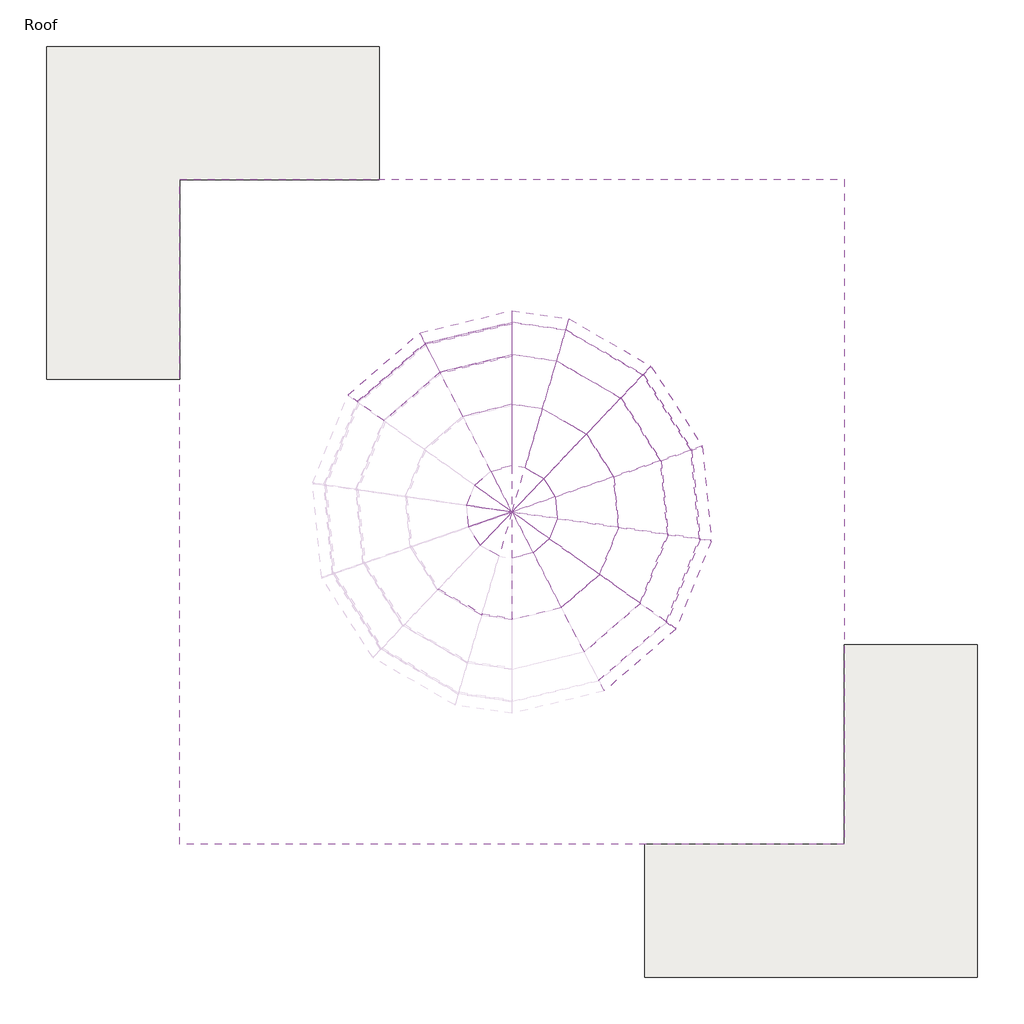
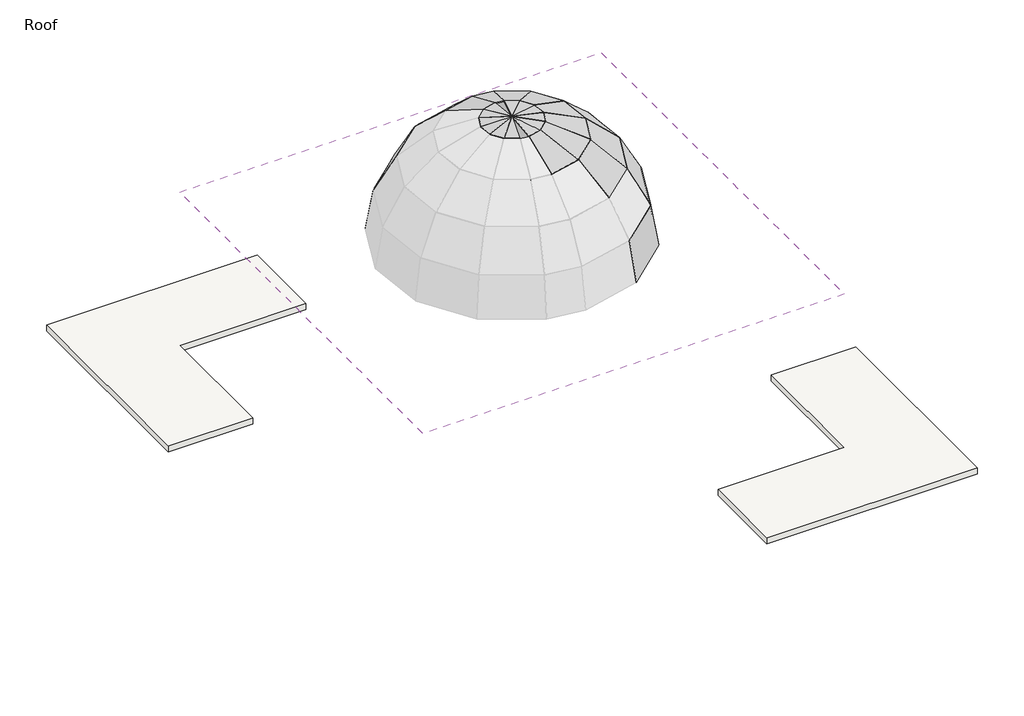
# One storey, part 2 of 2: 42 plates, 6 members, 2 roofs.
"""IFC4 building model written with IfcOpenShell, lengths in millimetres."""

from ifc_helpers import new_model, si_unit, point, frame, frame_2d, origin, place, context, project, spatial, polyline, circle_curve, trimmed, segment, composite_curve, outline, extrude, transform, mapped, element, save
from components import member_fbb779ea, member_620464ac, member_252065d0, member_881e67eb, member_adcb54fa, system_panel_glazed_edfc04ff, system_panel_glazed_745dfbfd, system_panel_glazed_ce843fd4, system_panel_glazed_a0137e14, system_panel_glazed_059680cf, system_panel_glazed_07fdee45, system_panel_glazed_b2bf2ea4, system_panel_glazed_06e87ee0, system_panel_glazed_48acb493, system_panel_glazed_d0db6324, system_panel_glazed_27f85530, system_panel_glazed_3e9c906c, system_panel_glazed_7529af5e, system_panel_glazed_72045049, system_panel_glazed_181d975e, system_panel_glazed_2dfb7dd8, system_panel_glazed_6040db8a, system_panel_glazed_f9e7ae01, system_panel_glazed_623a70a2, system_panel_glazed_789bb291

model = new_model("IFC4")

# Units and contexts
model_context = context("Model", 3, world=origin())
ifc_project = project(units=[si_unit("LENGTHUNIT", "METRE", prefix="MILLI")], contexts=[model_context])

# Site, building, storey
site = spatial("IfcSite", under=ifc_project)
building = spatial("IfcBuilding", under=site)
storey = spatial("IfcBuildingStorey", under=building, Name="Roof", Elevation=15240.0)

# Members
placement = place(None, origin())
member_shape = member_fbb779ea(model_context)
element("IfcMember", 1, ObjectType="Rectangular Mullion : 1\" Square", at=placement, inside=storey, context=model_context, shape_type="MappedRepresentation", body=[
    mapped(member_shape, transform((-7577.773586, 2766.7439013, 22146.744779), x_axis=(0.42588316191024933, 0.7365596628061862, 0.5254554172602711), y_axis=(-0.2630195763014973, -0.4548891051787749, 0.8508211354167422), z_axis=(0.8657044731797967, -0.5005554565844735, 0.0))),
])
member_2_shape = member_620464ac(model_context)
element("IfcMember", 2, ObjectType="Rectangular Mullion : 1\" Square", at=placement, inside=storey, context=model_context, shape_type="MappedRepresentation", body=[
    mapped(member_2_shape, transform((-6885.263284, 2666.9286124, 22146.744779), x_axis=(0.12075933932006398, 0.8378184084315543, 0.5324260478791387), y_axis=(-0.07595652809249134, -0.5269801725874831, 0.8464765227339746), z_axis=(0.9897715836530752, -0.14266117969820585, 0.0))),
])
member_3_shape = member_252065d0(model_context)
element("IfcMember", 3, ObjectType="Rectangular Mullion : 1\" Square", at=placement, inside=storey, context=model_context, shape_type="MappedRepresentation", body=[
    mapped(member_3_shape, transform((-8527.2773738, 8305.1014519, 21126.4036115), x_axis=(0.14889335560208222, -0.6139030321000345, 0.7752121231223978), y_axis=(-0.18271924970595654, 0.7533707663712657, 0.6317010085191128), z_axis=(-0.9718253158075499, -0.23570226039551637, 0.0))),
])
member_4_shape = member_881e67eb(model_context)
element("IfcMember", 4, ObjectType="Rectangular Mullion : 1\" Square", at=placement, inside=storey, context=model_context, shape_type="MappedRepresentation", body=[
    mapped(member_4_shape, transform((-8863.4377386, 8957.3483655, 19790.6842649), x_axis=(0.07946238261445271, -0.3276317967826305, 0.9414579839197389), y_axis=(-0.2219037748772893, 0.9149327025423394, 0.33713033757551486), z_axis=(-0.9718253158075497, -0.23570226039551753, 0.0))),
])
member_5_shape = member_adcb54fa(model_context)
element("IfcMember", 5, ObjectType="Rectangular Mullion : 1\" Square", at=placement, inside=storey, context=model_context, shape_type="MappedRepresentation", body=[
    mapped(member_5_shape, transform((-7922.2533534, 5268.593181, 22738.3365267), x_axis=(-0.1426611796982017, -0.9897715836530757, 0.0), y_axis=(-0.11444177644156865, 0.01649511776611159, 0.9932930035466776), z_axis=(-0.9831331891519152, 0.1417043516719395, -0.11562443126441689))),
])
element("IfcMember", 6, ObjectType="Rectangular Mullion : 1\" Square", at=placement, inside=storey, context=model_context, shape_type="MappedRepresentation", body=[
    mapped(member_5_shape, transform((-7875.5064995, 4776.9168891, 22738.3365267), x_axis=(0.32662703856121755, -0.9451533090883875, 0.0), y_axis=(-0.10928281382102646, -0.03776606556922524, 0.9932930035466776), z_axis=(-0.9388141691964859, -0.3244363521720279, -0.11562443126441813))),
])

# Plates
system_panel_glazed_shape = system_panel_glazed_edfc04ff(model_context)
element("IfcPlate", 7, ObjectType="System Panel : Glazed", at=placement, inside=storey, context=model_context, shape_type="MappedRepresentation", body=[
    mapped(system_panel_glazed_shape, transform((-7932.5321129, 9437.1261432, 18288.0), x_axis=(-0.9718253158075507, -0.23570226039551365, 0.0), y_axis=(0.2325850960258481, -0.9589729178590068, -0.1620960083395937), z_axis=(0.03820639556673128, -0.15752900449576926, 0.9867749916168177))),
])
element("IfcPlate", 8, ObjectType="System Panel : Glazed", at=placement, inside=storey, context=model_context, shape_type="MappedRepresentation", body=[
    mapped(system_panel_glazed_shape, transform((-3976.1832037, 1760.6816988, 18288.0), x_axis=(0.7558641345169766, 0.6547285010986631, 0.0), y_axis=(-0.6460697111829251, 0.745867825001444, -0.16209600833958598), z_axis=(-0.10612887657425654, 0.12252255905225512, 0.9867749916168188))),
])
element("IfcPlate", 9, ObjectType="System Panel : Glazed", at=placement, inside=storey, context=model_context, shape_type="MappedRepresentation", body=[
    mapped(system_panel_glazed_shape, transform((-2760.8341924, 3466.558242, 18288.0), x_axis=(0.3719331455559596, 0.9282595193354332, 0.0), y_axis=(-0.9159832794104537, 0.3670143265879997, -0.16209600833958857), z_axis=(-0.1504671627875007, 0.06028887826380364, 0.9867749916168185))),
])
element("IfcPlate", 10, ObjectType="System Panel : Glazed", at=placement, inside=storey, context=model_context, shape_type="MappedRepresentation", body=[
    mapped(system_panel_glazed_shape, transform((-2462.0249792, 5539.6720966, 18288.0), x_axis=(-0.09464965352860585, 0.9955106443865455, 0.0), y_axis=(-0.9823450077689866, -0.0933979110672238, -0.16209600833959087), z_axis=(-0.1613683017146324, -0.015342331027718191, 0.986774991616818))),
])
element("IfcPlate", 11, ObjectType="System Panel : Glazed", at=placement, inside=storey, context=model_context, shape_type="MappedRepresentation", body=[
    mapped(system_panel_glazed_shape, transform((-3146.1576115, 7519.3312949, 18288.0), x_axis=(-0.5401991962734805, 0.8415371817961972, 0.0), y_axis=(-0.8304078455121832, -0.5330550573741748, -0.1620960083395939), z_axis=(-0.13640981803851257, -0.08756413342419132, 0.9867749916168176))),
])
element("IfcPlate", 12, ObjectType="System Panel : Glazed", at=placement, inside=storey, context=model_context, shape_type="MappedRepresentation", body=[
    mapped(system_panel_glazed_shape, transform((-4661.2026155, 8965.6115706, 18288.0), x_axis=(-0.8657044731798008, 0.5005554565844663, 0.0), y_axis=(-0.4939356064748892, -0.854255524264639, -0.16209600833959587), z_axis=(-0.08113804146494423, -0.14032723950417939, 0.9867749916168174))),
])
element("IfcPlate", 13, ObjectType="System Panel : Glazed", at=placement, inside=storey, context=model_context, shape_type="MappedRepresentation", body=[
    mapped(system_panel_glazed_shape, transform((-9794.3433643, 8477.5705877, 18288.0), x_axis=(-0.7558641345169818, -0.6547285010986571, 0.0), y_axis=(0.6460697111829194, -0.7458678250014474, -0.16209600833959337), z_axis=(0.1061288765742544, -0.12252255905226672, 0.9867749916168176))),
])
system_panel_glazed_2_shape = system_panel_glazed_745dfbfd(model_context)
element("IfcPlate", 14, ObjectType="System Panel : Glazed", at=placement, inside=storey, context=model_context, shape_type="MappedRepresentation", body=[
    mapped(system_panel_glazed_2_shape, transform((-6239.6878234, 9598.0758291, 18288.0), x_axis=(-0.9897715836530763, 0.14266117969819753, 0.0), y_axis=(-0.14070559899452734, -0.9762039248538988, -0.16500858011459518), z_axis=(-0.02354031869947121, -0.1633208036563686, 0.9862921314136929))),
])
system_panel_glazed_3_shape = system_panel_glazed_ce843fd4(model_context)
element("IfcPlate", 15, ObjectType="System Panel : Glazed", at=placement, inside=storey, context=model_context, shape_type="MappedRepresentation", body=[
    mapped(system_panel_glazed_3_shape, transform((-2989.9691419, 3558.3675698, 19790.6842649), x_axis=(0.37193314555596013, 0.9282595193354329, 0.0), y_axis=(-0.8188691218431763, 0.3281028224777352, -0.4709584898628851), z_axis=(-0.4371717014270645, 0.17516507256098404, 0.8821553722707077))),
])
element("IfcPlate", 16, ObjectType="System Panel : Glazed", at=placement, inside=storey, context=model_context, shape_type="MappedRepresentation", body=[
    mapped(system_panel_glazed_3_shape, transform((-2707.7604406, 5516.3084325, 19790.6842649), x_axis=(-0.09464965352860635, 0.9955106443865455, 0.0), y_axis=(-0.8781950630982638, -0.0834957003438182, -0.47095848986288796), z_axis=(-0.4688441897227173, -0.0445760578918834, 0.8821553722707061))),
])
element("IfcPlate", 17, ObjectType="System Panel : Glazed", at=placement, inside=storey, context=model_context, shape_type="MappedRepresentation", body=[
    mapped(system_panel_glazed_3_shape, transform((-3353.8857044, 7385.9865642, 19790.6842649), x_axis=(-0.5401991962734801, 0.8415371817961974, 0.0), y_axis=(-0.7423665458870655, -0.47653962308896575, -0.47095848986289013), z_axis=(-0.39632908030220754, -0.2544113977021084, 0.8821553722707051))),
])
element("IfcPlate", 18, ObjectType="System Panel : Glazed", at=placement, inside=storey, context=model_context, shape_type="MappedRepresentation", body=[
    mapped(system_panel_glazed_3_shape, transform((-4784.7615415, 8751.9179357, 19790.6842649), x_axis=(-0.865704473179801, 0.5005554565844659, 0.0), y_axis=(-0.4415676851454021, -0.7636858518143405, -0.4709584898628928), z_axis=(-0.2357408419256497, -0.40771087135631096, 0.8821553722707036))),
])
element("IfcPlate", 19, ObjectType="System Panel : Glazed", at=placement, inside=storey, context=model_context, shape_type="MappedRepresentation", body=[
    mapped(system_panel_glazed_3_shape, transform((-7874.3505113, 9197.2372543, 19790.6842649), x_axis=(-0.9718253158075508, -0.23570226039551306, 0.0), y_axis=(0.20792601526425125, -0.8573009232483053, -0.47095848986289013), z_axis=(0.1110059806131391, -0.45768938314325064, 0.882155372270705))),
])
element("IfcPlate", 20, ObjectType="System Panel : Glazed", at=placement, inside=storey, context=model_context, shape_type="MappedRepresentation", body=[
    mapped(system_panel_glazed_3_shape, transform((-9632.7278043, 8290.9903408, 19790.6842649), x_axis=(-0.7558641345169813, -0.6547285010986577, 0.0), y_axis=(0.5775722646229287, -0.6667896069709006, -0.4709584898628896), z_axis=(0.3083499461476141, -0.3559806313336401, 0.8821553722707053))),
])
system_panel_glazed_4_shape = system_panel_glazed_a0137e14(model_context)
element("IfcPlate", 21, ObjectType="System Panel : Glazed", at=placement, inside=storey, context=model_context, shape_type="MappedRepresentation", body=[
    mapped(system_panel_glazed_4_shape, transform((-6275.5531268, 9349.245291, 19790.6842649), x_axis=(-0.9897715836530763, 0.14266117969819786, 0.0), y_axis=(-0.12533230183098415, -0.8695452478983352, -0.4776849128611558), z_axis=(-0.06814709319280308, -0.47279895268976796, 0.8785312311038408))),
])
system_panel_glazed_5_shape = system_panel_glazed_059680cf(model_context)
element("IfcPlate", 22, ObjectType="System Panel : Glazed", at=placement, inside=storey, context=model_context, shape_type="MappedRepresentation", body=[
    mapped(system_panel_glazed_5_shape, transform((-4604.6881593, 2486.2715479, 21126.4036115), x_axis=(0.7558641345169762, 0.6547285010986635, 0.0), y_axis=(-0.44522751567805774, 0.5140016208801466, -0.7331949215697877), z_axis=(-0.48004361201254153, 0.5541957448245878, 0.6800185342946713))),
])
element("IfcPlate", 23, ObjectType="System Panel : Glazed", at=placement, inside=storey, context=model_context, shape_type="MappedRepresentation", body=[
    mapped(system_panel_glazed_5_shape, transform((-3651.9145517, 3823.594517, 21126.4036115), x_axis=(0.3719331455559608, 0.9282595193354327, 0.0), y_axis=(-0.6312336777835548, 0.25292143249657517, -0.7331949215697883), z_axis=(-0.6805951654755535, 0.2726994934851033, 0.6800185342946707))),
])
element("IfcPlate", 24, ObjectType="System Panel : Glazed", at=placement, inside=storey, context=model_context, shape_type="MappedRepresentation", body=[
    mapped(system_panel_glazed_5_shape, transform((-3417.6628846, 5448.813403, 21126.4036115), x_axis=(-0.09464965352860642, 0.9955106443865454, 0.0), y_axis=(-0.6769656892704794, -0.06436351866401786, -0.7331949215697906), z_axis=(-0.7299033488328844, -0.06939664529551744, 0.6800185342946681))),
])
element("IfcPlate", 25, ObjectType="System Panel : Glazed", at=placement, inside=storey, context=model_context, shape_type="MappedRepresentation", body=[
    mapped(system_panel_glazed_5_shape, transform((-3953.989084, 7000.7684535, 21126.4036115), x_axis=(-0.540199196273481, 0.8415371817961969, 0.0), y_axis=(-0.572260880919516, -0.36734546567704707, -0.7331949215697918), z_axis=(-0.6170107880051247, -0.3960713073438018, 0.6800185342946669))),
])
element("IfcPlate", 26, ObjectType="System Panel : Glazed", at=placement, inside=storey, context=model_context, shape_type="MappedRepresentation", body=[
    mapped(system_panel_glazed_5_shape, transform((-5141.7095501, 8134.5807684, 21126.4036115), x_axis=(-0.8657044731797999, 0.5005554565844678, 0.0), y_axis=(-0.34038698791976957, -0.5886950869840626, -0.7331949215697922), z_axis=(-0.36700471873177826, -0.6347301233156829, 0.6800185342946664))),
])
element("IfcPlate", 27, ObjectType="System Panel : Glazed", at=placement, inside=storey, context=model_context, shape_type="MappedRepresentation", body=[
    mapped(system_panel_glazed_5_shape, transform((-7706.2703289, 8504.2249087, 21126.4036115), x_axis=(-0.9718253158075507, -0.23570226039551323, 0.0), y_axis=(0.16028190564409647, -0.6608592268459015, -0.7331949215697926), z_axis=(0.17281570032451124, -0.7125373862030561, 0.6800185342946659))),
])
system_panel_glazed_6_shape = system_panel_glazed_07fdee45(model_context)
element("IfcPlate", 28, ObjectType="System Panel : Glazed", at=placement, inside=storey, context=model_context, shape_type="MappedRepresentation", body=[
    mapped(system_panel_glazed_6_shape, transform((-6379.1640032, 8630.4015142, 21126.4036115), x_axis=(-0.9897715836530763, 0.14266117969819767, 0.0), y_axis=(-0.09605466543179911, -0.6664194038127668, -0.73936369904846), z_axis=(-0.10547849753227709, -0.7318011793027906, 0.6733062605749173))),
])
system_panel_glazed_7_shape = system_panel_glazed_b2bf2ea4(model_context)
element("IfcPlate", 29, ObjectType="System Panel : Glazed", at=placement, inside=storey, context=model_context, shape_type="MappedRepresentation", body=[
    mapped(system_panel_glazed_7_shape, transform((-6323.5594265, 2803.1618085, 22146.744779), x_axis=(0.9718253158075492, 0.23570226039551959, 0.0), y_axis=(-0.09373383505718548, 0.3864745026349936, -0.9175246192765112), z_axis=(-0.2162626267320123, 0.8916736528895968, 0.39767898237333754))),
])
element("IfcPlate", 30, ObjectType="System Panel : Glazed", at=placement, inside=storey, context=model_context, shape_type="MappedRepresentation", body=[
    mapped(system_panel_glazed_7_shape, transform((-5324.974791, 3317.8205496, 22146.744779), x_axis=(0.7558641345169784, 0.654728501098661, 0.0), y_axis=(-0.26037176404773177, 0.300591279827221, -0.9175246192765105), z_axis=(-0.6007295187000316, 0.6935239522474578, 0.3976789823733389))),
])
element("IfcPlate", 31, ObjectType="System Panel : Glazed", at=placement, inside=storey, context=model_context, shape_type="MappedRepresentation", body=[
    mapped(system_panel_glazed_7_shape, transform((-4673.1209317, 4232.7694225, 22146.744779), x_axis=(0.3719331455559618, 0.9282595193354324, 0.0), y_axis=(-0.3691493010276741, 0.14790999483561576, -0.9175246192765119), z_axis=(-0.8517009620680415, 0.34125781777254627, 0.3976789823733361))),
])
element("IfcPlate", 32, ObjectType="System Panel : Glazed", at=placement, inside=storey, context=model_context, shape_type="MappedRepresentation", body=[
    mapped(system_panel_glazed_7_shape, transform((-4512.8542618, 5344.6864557, 22146.744779), x_axis=(-0.09464965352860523, 0.9955106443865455, 0.0), y_axis=(-0.3958936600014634, -0.03764017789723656, -0.917524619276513), z_axis=(-0.913405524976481, -0.08684338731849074, 0.3976789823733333))),
])
element("IfcPlate", 33, ObjectType="System Panel : Glazed", at=placement, inside=storey, context=model_context, shape_type="MappedRepresentation", body=[
    mapped(system_panel_glazed_7_shape, transform((-4879.7895968, 6406.4789749, 22146.744779), x_axis=(-0.5401991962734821, 0.8415371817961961, 0.0), y_axis=(-0.334661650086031, -0.21482586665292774, -0.9175246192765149), z_axis=(-0.7721310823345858, -0.4956460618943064, 0.397678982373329))),
])
element("IfcPlate", 34, ObjectType="System Panel : Glazed", at=placement, inside=storey, context=model_context, shape_type="MappedRepresentation", body=[
    mapped(system_panel_glazed_7_shape, transform((-5692.3857512, 7182.1930871, 22146.744779), x_axis=(-0.865704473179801, 0.500555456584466, 0.0), y_axis=(-0.19906038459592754, -0.3442724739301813, -0.9175246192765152), z_axis=(-0.4592719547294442, -0.7943051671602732, 0.3976789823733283))),
])
element("IfcPlate", 35, ObjectType="System Panel : Glazed", at=placement, inside=storey, context=model_context, shape_type="MappedRepresentation", body=[
    mapped(system_panel_glazed_7_shape, transform((-7446.9671415, 7435.0904779, 22146.744779), x_axis=(-0.9718253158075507, -0.23570226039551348, 0.0), y_axis=(0.09373383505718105, -0.3864745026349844, -0.9175246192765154), z_axis=(0.21626262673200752, -0.8916736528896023, 0.3976789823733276))),
])
system_panel_glazed_8_shape = system_panel_glazed_06e87ee0(model_context)
element("IfcPlate", 36, ObjectType="System Panel : Glazed", at=placement, inside=storey, context=model_context, shape_type="MappedRepresentation", body=[
    mapped(system_panel_glazed_8_shape, transform((-6539.008133, 7521.4160296, 22146.744779), x_axis=(-0.9897715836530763, 0.1426611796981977, 0.0), y_axis=(-0.0558636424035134, -0.3875773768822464, -0.9201429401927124), z_axis=(-0.13126867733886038, -0.9107313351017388, 0.39158264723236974))),
])
system_panel_glazed_9_shape = system_panel_glazed_48acb493(model_context)
element("IfcPlate", 37, ObjectType="System Panel : Glazed", at=placement, inside=storey, context=model_context, shape_type="MappedRepresentation", body=[
    mapped(system_panel_glazed_9_shape, transform((-6645.2782389, 4072.1941288, 22731.6674898), x_axis=(0.9996088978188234, 0.0032257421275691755, -0.027778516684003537), y_axis=(-0.02796518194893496, 0.11530339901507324, -0.9929365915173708), z_axis=(0.0, 0.993325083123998, 0.11534851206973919))),
])
system_panel_glazed_10_shape = system_panel_glazed_d0db6324(model_context)
element("IfcPlate", 38, ObjectType="System Panel : Glazed", at=placement, inside=storey, context=model_context, shape_type="MappedRepresentation", body=[
    mapped(system_panel_glazed_10_shape, transform((-6458.0454732, 4187.461738, 22742.4307712), x_axis=(0.9969782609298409, 0.006987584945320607, -0.07736614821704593), y_axis=(-0.07768106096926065, 0.0896804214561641, -0.9929365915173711), z_axis=(0.0, 0.9959460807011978, 0.08995223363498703))),
])
system_panel_glazed_11_shape = system_panel_glazed_27f85530(model_context)
element("IfcPlate", 39, ObjectType="System Panel : Glazed", at=placement, inside=storey, context=model_context, shape_type="MappedRepresentation", body=[
    mapped(system_panel_glazed_11_shape, transform((-6365.7499987, 4509.5555933, 22775.2858926), x_axis=(0.9939166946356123, 0.004889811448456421, -0.11002587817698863), y_axis=(-0.11013448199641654, 0.04412846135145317, -0.9929365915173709), z_axis=(0.0, 0.99901389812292, 0.0443985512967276))),
])
system_panel_glazed_12_shape = system_panel_glazed_3e9c906c(model_context)
element("IfcPlate", 40, ObjectType="System Panel : Glazed", at=placement, inside=storey, context=model_context, shape_type="MappedRepresentation", body=[
    mapped(system_panel_glazed_12_shape, transform((-6365.5851592, 4970.3549732, 22799.8648745), x_axis=(0.9930000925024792, -0.0013357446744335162, -0.11810602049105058), y_axis=(-0.11811357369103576, -0.011229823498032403, -0.9929365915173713), z_axis=(0.0, 0.9999360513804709, -0.011308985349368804))),
])
system_panel_glazed_13_shape = system_panel_glazed_7529af5e(model_context)
element("IfcPlate", 41, ObjectType="System Panel : Glazed", at=placement, inside=storey, context=model_context, shape_type="MappedRepresentation", body=[
    mapped(system_panel_glazed_13_shape, transform((-6389.2793259, 5116.7464498, 22810.2797062), x_axis=(0.9950029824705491, -0.006431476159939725, -0.09963784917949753), y_axis=(-0.09984520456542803, -0.06409259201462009, -0.9929365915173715), z_axis=(0.0, 0.9979232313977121, -0.06441447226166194))),
])
system_panel_glazed_14_shape = system_panel_glazed_72045049(model_context)
element("IfcPlate", 42, ObjectType="System Panel : Glazed", at=placement, inside=storey, context=model_context, shape_type="MappedRepresentation", body=[
    mapped(system_panel_glazed_14_shape, transform((-6523.19215, 5118.7275753, 22838.3852169), x_axis=(0.9982349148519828, -0.006110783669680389, -0.059073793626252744), y_axis=(-0.05938901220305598, -0.10271256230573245, -0.992936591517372), z_axis=(0.0, 0.9946923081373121, -0.10289417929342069))),
])
system_panel_glazed_15_shape = system_panel_glazed_181d975e(model_context)
element("IfcPlate", 43, ObjectType="System Panel : Glazed", at=placement, inside=storey, context=model_context, shape_type="MappedRepresentation", body=[
    mapped(system_panel_glazed_15_shape, transform((-7125.2483291, 5120.5795287, 22853.0722608), x_axis=(0.9996088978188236, 0.0032257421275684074, 0.027778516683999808), y_axis=(0.02796518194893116, -0.11530339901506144, -0.9929365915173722), z_axis=(0.0, 0.9933250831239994, -0.11534851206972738))),
])
system_panel_glazed_16_shape = system_panel_glazed_2dfb7dd8(model_context)
element("IfcPlate", 44, ObjectType="System Panel : Glazed", at=placement, inside=storey, context=model_context, shape_type="MappedRepresentation", body=[
    mapped(system_panel_glazed_16_shape, transform((-7312.4810948, 5117.5938396, 22826.7155834), x_axis=(0.9969782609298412, 0.006987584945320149, 0.07736614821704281), y_axis=(0.07768106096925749, -0.0896804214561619, -0.9929365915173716), z_axis=(0.0, 0.9959460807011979, -0.08995223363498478))),
])
system_panel_glazed_17_shape = system_panel_glazed_6040db8a(model_context)
element("IfcPlate", 45, ObjectType="System Panel : Glazed", at=placement, inside=storey, context=model_context, shape_type="MappedRepresentation", body=[
    mapped(system_panel_glazed_17_shape, transform((-7404.7765693, 5116.9319495, 22802.4741714), x_axis=(0.9939166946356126, 0.004889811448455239, 0.11002587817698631), y_axis=(0.11013448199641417, -0.04412846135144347, -0.9929365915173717), z_axis=(0.0, 0.9990138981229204, -0.044398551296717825))),
])
system_panel_glazed_18_shape = system_panel_glazed_f9e7ae01(model_context)
element("IfcPlate", 46, ObjectType="System Panel : Glazed", at=placement, inside=storey, context=model_context, shape_type="MappedRepresentation", body=[
    mapped(system_panel_glazed_18_shape, transform((-7404.9414088, 4776.2839034, 22794.3048701), x_axis=(0.993000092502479, -0.00133574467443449, 0.1181060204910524), y_axis=(0.1181135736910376, 0.011229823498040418, -0.9929365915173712), z_axis=(0.0, 0.9999360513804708, 0.011308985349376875))),
])
system_panel_glazed_19_shape = system_panel_glazed_623a70a2(model_context)
element("IfcPlate", 47, ObjectType="System Panel : Glazed", at=placement, inside=storey, context=model_context, shape_type="MappedRepresentation", body=[
    mapped(system_panel_glazed_19_shape, transform((-7381.2472421, 4359.8168584, 22761.1138065), x_axis=(0.9950029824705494, -0.006431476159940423, 0.09963784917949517), y_axis=(0.09984520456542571, 0.06409259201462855, -0.9929365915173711), z_axis=(0.0, 0.9979232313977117, 0.06441447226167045))),
])
system_panel_glazed_20_shape = system_panel_glazed_789bb291(model_context)
element("IfcPlate", 48, ObjectType="System Panel : Glazed", at=placement, inside=storey, context=model_context, shape_type="MappedRepresentation", body=[
    mapped(system_panel_glazed_20_shape, transform((-7247.334418, 4114.4712005, 22734.4192414), x_axis=(0.9982349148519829, -0.006110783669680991, 0.05907379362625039), y_axis=(0.059389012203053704, 0.1027125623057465, -0.9929365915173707), z_axis=(0.0, 0.9946923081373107, 0.10289417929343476))),
])

# Roofs
element("IfcRoof", 49, ObjectType="Generic - 9\"", at=placement, inside=storey, context=model_context, shape_type="SweptSolid", body=[
    extrude(outline(polyline([(-14505.263284, 12739.1261432), (-14505.263284, 8167.1261432), (-17553.263284, 8167.1261432), (-17553.263284, 15787.1261432), (-9933.263284, 15787.1261432), (-9933.263284, 12739.1261432), (-14505.263284, 12739.1261432)])), frame((0.0, 0.0, 11963.4), z_axis=(0.0, 0.0, 1.0), x_axis=(1.0, 0.0, 0.0)), (0.0, 0.0, 1.0), 228.6),
    extrude(outline(polyline([(734.736716, -2500.8738568), (734.736716, 2071.1261432), (3782.736716, 2071.1261432), (3782.736716, -5548.8738568), (-3837.263284, -5548.8738568), (-3837.263284, -2500.8738568), (734.736716, -2500.8738568)])), frame((0.0, 0.0, 11963.4), z_axis=(0.0, 0.0, 1.0), x_axis=(1.0, 0.0, 0.0)), (0.0, 0.0, 1.0), 228.6),
])
element("IfcRoof", 50, ObjectType="Generic - 9\"", at=placement, inside=storey, context=model_context, shape_type="SweptSolid", body=[
    extrude(outline(polyline([(734.736716, 12739.1261432), (734.736716, -2500.8738568), (-14505.263284, -2500.8738568), (-14505.263284, 12739.1261432), (734.736716, 12739.1261432)]), holes=[composite_curve([segment(trimmed(circle_curve(frame_2d((-6885.263284, 5119.1261432)), 4572.0), [point((-2313.263284, 5119.1261432))], [point((-11457.263284, 5119.1261432))], True, "CARTESIAN"), True, "CONTINUOUS"), segment(trimmed(circle_curve(frame_2d((-6885.263284, 5119.1261432)), 4572.0), [point((-11457.263284, 5119.1261432))], [point((-2313.263284, 5119.1261432))], True, "CARTESIAN"), True, "CONTINUOUS")], self_intersect=False)]), frame((0.0, 0.0, 18059.4), z_axis=(0.0, 0.0, 1.0), x_axis=(1.0, 0.0, 0.0)), (0.0, 0.0, 1.0), 228.6),
])

save(model, "model.ifc")
